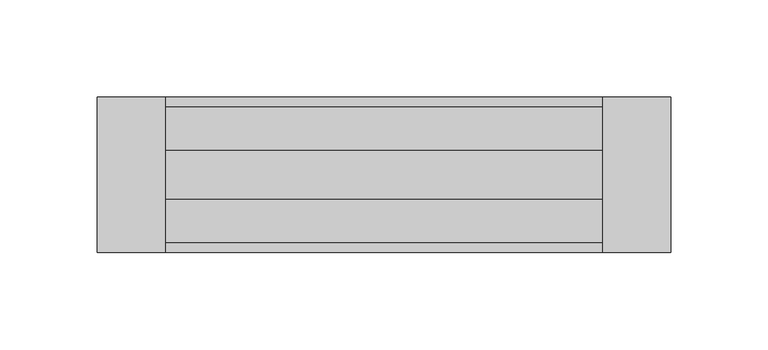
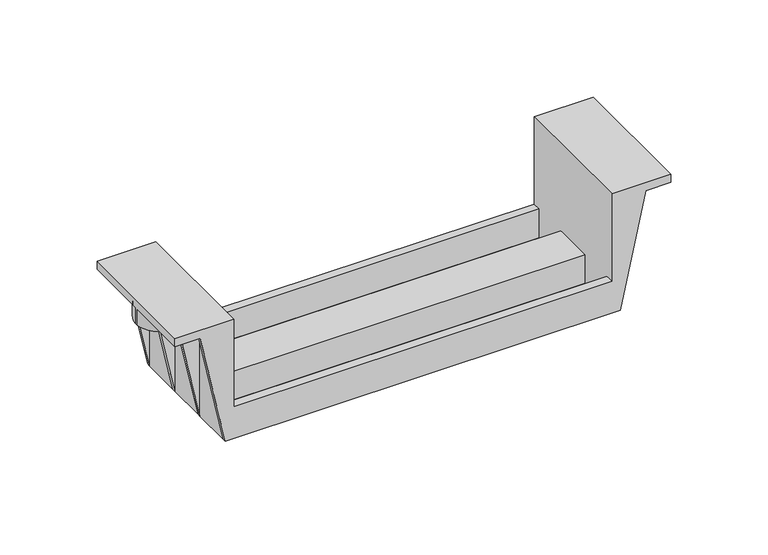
"""IFC4 building model written with IfcOpenShell, lengths in millimetres: proxy geometry, SVG_Support-Basorplast : Basorplast SVG 200."""

from ifc_helpers import new_model, si_unit, frame, origin, place, context, project, spatial, circle_curve, source, transform, mapped, element, save
from ifc_brep_helpers import plane_surface, cylinder_surface, advanced_brep


def generic_models_7a9899f3(model_context):
    return source(origin(), model_context, "Body", "AdvancedBrep", [
        advanced_brep(
        [(117.5, -40.0, 0.0), (132.5, -40.0, 70.0), (147.5, -40.0, 70.0), (147.5, -40.0, 75.0), (112.5, -40.0, 75.0), (112.5, -40.0, 20.0), (-112.5, -40.0, 20.0), (-112.5, -40.0, 75.0), (-147.5, -40.0, 75.0), (-147.5, -40.0, 70.0), (-132.5, -40.0, 70.0), (-117.5, -40.0, 0.0), (112.5, 40.0, 75.0), (147.5, 40.0, 75.0), (147.5, 40.0, 70.0), (132.5, 40.0, 70.0), (117.5, 40.0, 0.0), (-117.5, 40.0, 0.0), (-132.5, 40.0, 70.0), (-147.5, 40.0, 70.0), (-147.5, 40.0, 75.0), (-112.5, 40.0, 75.0), (-112.5, 40.0, 20.0), (112.5, 40.0, 20.0), (112.5, 35.0, 20.0), (112.5, 35.0, 2.0), (112.5, 12.5, 2.0), (112.5, 12.5, 20.0), (112.5, -12.5, 20.0), (112.5, -12.5, 2.0), (112.5, -35.0, 2.0), (112.5, -35.0, 20.0), (117.5, 38.0, 0.0), (117.5, 14.0, 0.0), (117.5, 12.0, 0.0), (117.5, -12.0, 0.0), (117.5, -14.0, 0.0), (117.5, -38.0, 0.0), (-117.5, -38.0, 0.0), (-117.5, -14.0, 0.0), (-117.5, -12.0, 0.0), (-117.5, 12.0, 0.0), (-117.5, 14.0, 0.0), (-117.5, 38.0, 0.0), (107.5, 10.0, 0.0), (-107.5, 10.0, 0.0), (-107.5, -10.0, 0.0), (107.5, -10.0, 0.0), (132.5, -38.0, 70.0), (132.5, 38.0, 70.0), (130.3571429, 14.0, 60.0), (130.3571429, 12.0, 60.0), (130.3571429, -12.0, 60.0), (130.3571429, -14.0, 60.0), (117.5, -38.0, 70.0), (117.5, -14.0, 70.0), (133.53576, -14.0, 70.0), (147.5, -1.0, 70.0), (-147.5, -1.0, 70.0), (-133.53576, -14.0, 70.0), (-117.5, -14.0, 70.0), (-117.5, -38.0, 70.0), (-132.5, -38.0, 70.0), (147.5, 0.0, 70.0), (133.5, 14.0, 70.0), (117.5, 14.0, 70.0), (117.5, 38.0, 70.0), (-132.5, 38.0, 70.0), (-117.5, 38.0, 70.0), (-117.5, 14.0, 70.0), (-133.5, 14.0, 70.0), (-147.5, 0.0, 70.0), (147.5, -1.0, 60.0), (147.5, 0.0, 60.0), (-130.3571429, -14.0, 60.0), (-130.3571429, -12.0, 60.0), (-130.3571429, 12.0, 60.0), (-130.3571429, 14.0, 60.0), (-112.5, -35.0, 20.0), (-112.5, -35.0, 2.0), (-112.5, -12.5, 2.0), (-112.5, -12.5, 20.0), (-112.5, 12.5, 20.0), (-112.5, 12.5, 2.0), (-112.5, 35.0, 2.0), (-112.5, 35.0, 20.0), (-147.5, 0.0, 60.0), (-147.5, -1.0, 60.0), (-133.5, 14.0, 60.0), (-133.53576, -14.0, 60.0), (-117.5, 12.0, 60.0), (-117.5, -12.0, 60.0), (133.5, 14.0, 60.0), (133.53576, -14.0, 60.0), (117.5, 12.0, 60.0), (117.5, -12.0, 60.0), (107.5, 10.0, 18.0), (107.5, -10.0, 18.0), (-107.5, -10.0, 18.0), (-107.5, 10.0, 18.0)],
        [
            (0, 1),
            (1, 2),
            (2, 3),
            (3, 4),
            (4, 5),
            (5, 6),
            (6, 7),
            (7, 8),
            (8, 9),
            (9, 10),
            (10, 11),
            (11, 0),
            (12, 13),
            (13, 14),
            (14, 15),
            (15, 16),
            (16, 17),
            (17, 18),
            (18, 19),
            (19, 20),
            (20, 21),
            (21, 22),
            (22, 23),
            (23, 12),
            (4, 12),
            (23, 24),
            (24, 25),
            (25, 26),
            (26, 27),
            (27, 28),
            (28, 29),
            (29, 30),
            (30, 31),
            (31, 5),
            (16, 32),
            (32, 33),
            (33, 34),
            (34, 35),
            (35, 36),
            (36, 37),
            (37, 0),
            (11, 38),
            (38, 39),
            (39, 40),
            (40, 41),
            (41, 42),
            (42, 43),
            (43, 17),
            (44, 45),
            (45, 46),
            (46, 47),
            (47, 44),
            (37, 48),
            (48, 1),
            (15, 49),
            (49, 32),
            (33, 50),
            (50, 51),
            (51, 34),
            (35, 52),
            (52, 53),
            (53, 36),
            (48, 54),
            (54, 55),
            (55, 56),
            (56, 57, circle_curve(frame((133.53576, 0.0, 70.0), z_axis=(0.0, 0.0, 1.0), x_axis=(1.0, 0.0, 0.0)), 14.0)),
            (57, 2),
            (9, 58),
            (58, 59, circle_curve(frame((-133.53576, 0.0, 70.0), z_axis=(0.0, 0.0, 1.0), x_axis=(1.0, 0.0, 0.0)), 14.0)),
            (59, 60),
            (60, 61),
            (61, 62),
            (62, 10),
            (14, 63),
            (63, 64, circle_curve(frame((133.5, 0.0, 70.0), z_axis=(0.0, 0.0, 1.0), x_axis=(1.0, 0.0, 0.0)), 14.0)),
            (64, 65),
            (65, 66),
            (66, 49),
            (18, 67),
            (67, 68),
            (68, 69),
            (69, 70),
            (70, 71, circle_curve(frame((-133.5, 0.0, 70.0), z_axis=(0.0, 0.0, 1.0), x_axis=(1.0, 0.0, 0.0)), 14.0)),
            (71, 19),
            (57, 72),
            (72, 73),
            (73, 63),
            (13, 3),
            (62, 38),
            (43, 67),
            (39, 74),
            (74, 75),
            (75, 40),
            (41, 76),
            (76, 77),
            (77, 42),
            (21, 7),
            (6, 78),
            (78, 79),
            (79, 80),
            (80, 81),
            (81, 82),
            (82, 83),
            (83, 84),
            (84, 85),
            (85, 22),
            (20, 8),
            (71, 86),
            (86, 87),
            (87, 58),
            (79, 30),
            (29, 80),
            (25, 84),
            (83, 26),
            (24, 85),
            (82, 27),
            (78, 31),
            (28, 81),
            (43, 68),
            (77, 88),
            (88, 70),
            (69, 42),
            (61, 38),
            (60, 39),
            (59, 89),
            (89, 74),
            (41, 90),
            (90, 76),
            (75, 91),
            (91, 40),
            (91, 90),
            (65, 33),
            (32, 66),
            (64, 92),
            (92, 50),
            (53, 93),
            (93, 56),
            (55, 36),
            (54, 37),
            (34, 94),
            (94, 95),
            (95, 35),
            (95, 52),
            (51, 94),
            (96, 97),
            (97, 98),
            (98, 99),
            (99, 96),
            (99, 45),
            (44, 96),
            (98, 46),
            (97, 47),
            (89, 87, circle_curve(frame((-133.53576, 0.0, 60.0), z_axis=(0.0, 0.0, -1.0), x_axis=(1.0, 0.0, 0.0)), 14.0)),
            (86, 88, circle_curve(frame((-133.5, 0.0, 60.0), z_axis=(0.0, 0.0, -1.0), x_axis=(1.0, 0.0, 0.0)), 14.0)),
            (92, 73, circle_curve(frame((133.5, 0.0, 60.0), z_axis=(0.0, 0.0, -1.0), x_axis=(1.0, 0.0, 0.0)), 14.0)),
            (72, 93, circle_curve(frame((133.53576, 0.0, 60.0), z_axis=(0.0, 0.0, -1.0), x_axis=(1.0, 0.0, 0.0)), 14.0)),
        ],
        [
            plane_surface(frame((112.5, -40.0, 75.0), z_axis=(0.0, -1.0, 0.0), x_axis=(0.0, 0.0, -1.0))),
            plane_surface(frame((112.5, 40.0, 75.0), z_axis=(0.0, 1.0, 0.0), x_axis=(0.0, 0.0, 1.0))),
            plane_surface(frame((112.5, -40.0, 75.0), z_axis=(-1.0, 0.0, 0.0), x_axis=(0.0, 1.0, 0.0))),
            plane_surface(frame((112.5, -40.0, 0.0), z_axis=(0.0, 0.0, -1.0), x_axis=(0.0, 1.0, 0.0))),
            plane_surface(frame((117.5, -40.0, 0.0), z_axis=(0.9778024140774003, 0.0, -0.20952908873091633), x_axis=(0.0, 1.0, 0.0))),
            plane_surface(frame((132.5, -40.0, 70.0), z_axis=(0.0, 0.0, -1.0), x_axis=(0.0, 1.0, 0.0))),
            plane_surface(frame((147.5, -40.0, 70.0), z_axis=(1.0, 0.0, 0.0), x_axis=(0.0, 1.0, 0.0))),
            plane_surface(frame((147.5, -40.0, 75.0), z_axis=(0.0, 0.0, 1.0), x_axis=(0.0, 1.0, 0.0))),
            plane_surface(frame((-132.5, -40.0, 70.0), z_axis=(-0.9778024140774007, 0.0, -0.20952908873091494), x_axis=(0.0, 1.0, 0.0))),
            plane_surface(frame((-112.5, -40.0, 0.0), z_axis=(1.0, 0.0, 0.0), x_axis=(0.0, 1.0, 0.0))),
            plane_surface(frame((-112.5, -40.0, 75.0), z_axis=(0.0, 0.0, 1.0), x_axis=(0.0, 1.0, 0.0))),
            plane_surface(frame((-147.5, -40.0, 75.0), z_axis=(-1.0, 0.0, 0.0), x_axis=(0.0, 1.0, 0.0))),
            plane_surface(frame((-112.5, 35.0, 2.0), z_axis=(0.0, 0.0, 1.0), x_axis=(1.0, 0.0, 0.0))),
            plane_surface(frame((112.5, 35.0, 20.0), z_axis=(0.0, -1.0, 0.0), x_axis=(0.0, 0.0, -1.0))),
            plane_surface(frame((-112.5, 12.5, 20.0), z_axis=(0.0, 1.0, 0.0), x_axis=(0.0, 0.0, -1.0))),
            plane_surface(frame((-112.5, -35.0, 20.0), z_axis=(0.0, 1.0, 0.0), x_axis=(0.0, 0.0, -1.0))),
            plane_surface(frame((112.5, -12.5, 20.0), z_axis=(0.0, -1.0, 0.0), x_axis=(0.0, 0.0, -1.0))),
            plane_surface(frame((-117.5, 38.0, 70.0), z_axis=(0.0, -1.0, 0.0), x_axis=(0.0, 0.0, -1.0))),
            plane_surface(frame((-147.5, 14.0, 70.0), z_axis=(0.0, 1.0, 0.0), x_axis=(0.0, 0.0, -1.0))),
            plane_surface(frame((-117.5, 14.0, 70.0), z_axis=(-1.0, 0.0, 0.0), x_axis=(0.0, 0.0, -1.0))),
            plane_surface(frame((-147.5, -38.0, 70.0), z_axis=(0.0, 1.0, 0.0), x_axis=(0.0, 0.0, -1.0))),
            plane_surface(frame((-117.5, -38.0, 70.0), z_axis=(-1.0, 0.0, 0.0), x_axis=(0.0, 0.0, -1.0))),
            plane_surface(frame((-117.5, -14.0, 70.0), z_axis=(0.0, -1.0, 0.0), x_axis=(0.0, 0.0, -1.0))),
            plane_surface(frame((-117.5, 12.0, 70.0), z_axis=(0.0, -1.0, 0.0), x_axis=(0.0, 0.0, -1.0))),
            plane_surface(frame((-147.5, -12.0, 70.0), z_axis=(0.0, 1.0, 0.0), x_axis=(0.0, 0.0, -1.0))),
            plane_surface(frame((-117.5, -12.0, 70.0), z_axis=(-1.0, 0.0, 0.0), x_axis=(0.0, 0.0, -1.0))),
            plane_surface(frame((117.5, 38.0, 70.0), z_axis=(1.0, 0.0, 0.0), x_axis=(0.0, 0.0, -1.0))),
            plane_surface(frame((117.5, 14.0, 70.0), z_axis=(0.0, 1.0, 0.0), x_axis=(0.0, 0.0, -1.0))),
            plane_surface(frame((147.5, 38.0, 70.0), z_axis=(0.0, -1.0, 0.0), x_axis=(0.0, 0.0, -1.0))),
            plane_surface(frame((147.5, -14.0, 70.0), z_axis=(0.0, -1.0, 0.0), x_axis=(0.0, 0.0, -1.0))),
            plane_surface(frame((117.5, -14.0, 70.0), z_axis=(1.0, 0.0, 0.0), x_axis=(0.0, 0.0, -1.0))),
            plane_surface(frame((117.5, -38.0, 70.0), z_axis=(0.0, 1.0, 0.0), x_axis=(0.0, 0.0, -1.0))),
            plane_surface(frame((117.5, 12.0, 70.0), z_axis=(1.0, 0.0, 0.0), x_axis=(0.0, 0.0, -1.0))),
            plane_surface(frame((117.5, -12.0, 70.0), z_axis=(0.0, 1.0, 0.0), x_axis=(0.0, 0.0, -1.0))),
            plane_surface(frame((147.5, 12.0, 70.0), z_axis=(0.0, -1.0, 0.0), x_axis=(0.0, 0.0, -1.0))),
            plane_surface(frame((-112.5, 40.0, 20.0), z_axis=(0.0, 0.0, 1.0), x_axis=(-1.0, 0.0, 0.0))),
            plane_surface(frame((-107.5, 10.0, 18.0), z_axis=(0.0, 0.0, -1.0), x_axis=(-1.0, 0.0, 0.0))),
            plane_surface(frame((107.5, 10.0, 18.0), z_axis=(0.0, -1.0, 0.0), x_axis=(0.0, 0.0, -1.0))),
            plane_surface(frame((-107.5, 10.0, 18.0), z_axis=(1.0, 0.0, 0.0), x_axis=(0.0, 0.0, -1.0))),
            plane_surface(frame((-107.5, -10.0, 18.0), z_axis=(0.0, 1.0, 0.0), x_axis=(0.0, 0.0, -1.0))),
            plane_surface(frame((107.5, -10.0, 18.0), z_axis=(-1.0, 0.0, 0.0), x_axis=(0.0, 0.0, -1.0))),
            plane_surface(frame((-117.5, -14.0, 60.0), z_axis=(0.0, 0.0, -1.0), x_axis=(-1.0, 0.0, 0.0))),
            cylinder_surface(frame((-133.5, 0.0, 60.0), z_axis=(0.0, 0.0, 1.0), x_axis=(1.0, 0.0, 0.0)), 14.0),
            cylinder_surface(frame((-133.53576, 0.0, 60.0), z_axis=(0.0, 0.0, 1.0), x_axis=(1.0, 0.0, 0.0)), 14.0),
            cylinder_surface(frame((133.53576, 0.0, 0.0), z_axis=(0.0, 0.0, 1.0), x_axis=(1.0, 0.0, 0.0)), 14.0),
            cylinder_surface(frame((133.5, 0.0, 0.0), z_axis=(0.0, 0.0, 1.0), x_axis=(1.0, 0.0, 0.0)), 14.0),
        ],
        [
            (0, [[1, 2, 3, 4, 5, 6, 7, 8, 9, 10, 11, 12]]),
            (1, [[13, 14, 15, 16, 17, 18, 19, 20, 21, 22, 23, 24]]),
            (2, [[25, -24, 26, 27, 28, 29, 30, 31, 32, 33, 34, -5]]),
            (3, [[35, 36, 37, 38, 39, 40, 41, -12, 42, 43, 44, 45, 46, 47, 48, -17], [49, 50, 51, 52]]),
            (4, [[-1, -41, 53, 54]]),
            (4, [[-16, 55, 56, -35]]),
            (4, [[-37, 57, 58, 59]]),
            (4, [[-39, 60, 61, 62]]),
            (5, [[-2, -54, 63, 64, 65, 66, 67]]),
            (5, [[-10, 68, 69, 70, 71, 72, 73]]),
            (5, [[-15, 74, 75, 76, 77, 78, -55]]),
            (5, [[-19, 79, 80, 81, 82, 83, 84]]),
            (6, [[-3, -67, 85, 86, 87, -74, -14, 88]]),
            (7, [[-4, -88, -13, -25]]),
            (8, [[-11, -73, 89, -42]]),
            (8, [[-18, -48, 90, -79]]),
            (8, [[-44, 91, 92, 93]]),
            (8, [[-46, 94, 95, 96]]),
            (9, [[97, -7, 98, 99, 100, 101, 102, 103, 104, 105, 106, -22]]),
            (10, [[107, -8, -97, -21]]),
            (11, [[-9, -107, -20, -84, 108, 109, 110, -68]]),
            (12, [[-100, 111, -32, 112]]),
            (12, [[113, -104, 114, -28]]),
            (13, [[-113, -27, 115, -105]]),
            (14, [[-114, -103, 116, -29]]),
            (15, [[-111, -99, 117, -33]]),
            (16, [[-112, -31, 118, -101]]),
            (17, [[119, -80, -90]]),
            (18, [[-96, 120, 121, -82, 122]]),
            (19, [[-122, -81, -119, -47]]),
            (20, [[123, -89, -72]]),
            (21, [[-71, 124, -43, -123]]),
            (22, [[125, 126, -91, -124, -70]]),
            (23, [[-94, 127, 128]]),
            (24, [[-93, 129, 130]]),
            (25, [[-45, -130, 131, -127]]),
            (26, [[-77, 132, -36, 133]]),
            (27, [[134, 135, -57, -132, -76]]),
            (28, [[-133, -56, -78]]),
            (29, [[-62, 136, 137, -65, 138]]),
            (30, [[-138, -64, 139, -40]]),
            (31, [[-139, -63, -53]]),
            (32, [[-38, 140, 141, 142]]),
            (33, [[-60, -142, 143]]),
            (34, [[-59, 144, -140]]),
            (35, [[-6, -34, -117, -98]]),
            (35, [[-23, -106, -115, -26]]),
            (35, [[-30, -116, -102, -118]]),
            (36, [[145, 146, 147, 148]]),
            (37, [[-148, 149, -49, 150]]),
            (38, [[-147, 151, -50, -149]]),
            (39, [[-146, 152, -51, -151]]),
            (40, [[-145, -150, -52, -152]]),
            (41, [[153, -109, 154, -120, -95, -128, -131, -129, -92, -126]]),
            (41, [[155, -86, 156, -136, -61, -143, -141, -144, -58, -135]]),
            (42, [[-154, -108, -83, -121]]),
            (43, [[-153, -125, -69, -110]]),
            (44, [[-156, -85, -66, -137]]),
            (45, [[-155, -134, -75, -87]]),
        ],
    ),
    ])


if __name__ == "__main__":
    model = new_model("IFC4")
    model_context = context("Model", 3, world=origin())
    ifc_project = project(units=[si_unit("LENGTHUNIT", "METRE", prefix="MILLI")], contexts=[model_context])
    site = spatial("IfcSite", under=ifc_project)
    building = spatial("IfcBuilding", under=site)
    placement = place(None, origin())
    generic_models_shape = generic_models_7a9899f3(model_context)
    element("IfcBuildingElementProxy", 1, Name="SVG_Support-Basorplast : Basorplast SVG 200", ObjectType="SVG_Support-Basorplast : Basorplast SVG 200", at=placement, inside=building, context=model_context, shape_type="MappedRepresentation", body=[
        mapped(generic_models_shape, transform((0.0, 0.0, 0.0), x_axis=(1.0, 0.0, 0.0), y_axis=(0.0, 1.0, 0.0), z_axis=(0.0, 0.0, 1.0))),
    ])
    save(model, "model.ifc")
